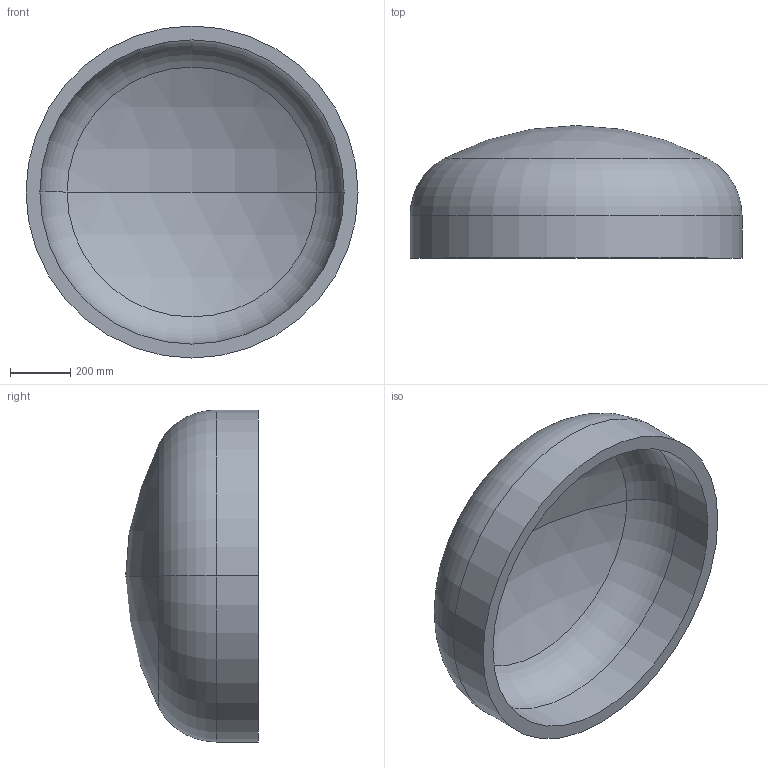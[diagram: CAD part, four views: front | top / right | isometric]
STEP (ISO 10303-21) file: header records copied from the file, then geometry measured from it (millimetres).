
FILE_DESCRIPTION (( 'STEP AP203' ), '1' );
FILE_NAME ('DIN 28013 Korbbogenform_-_Boden DIN 28013 - 1100 x 140 - I - s=46.step', '2016-07-01T09:08:57', ( '' ), ( '' ), 'SwSTEP 2.0', 'SolidWorks 2013', '' );
FILE_SCHEMA (( 'CONFIG_CONTROL_DESIGN' ));
Length unit declared in the file: millimetre
Products named in the file (1): DIN 28013 Korbbogenform_-_Boden DIN 28013 - 1100 x 140 - I - s=46
Bounding box: 1100 x 439.47 x 1100 mm (x, y, z)
Volume: 78722120.8 mm3; surface area: 3579448.8 mm2
Topology: 1 solids, 1 shells, 13 faces, 24 edges, 14 vertices
Faces by surface type: torus 4, cylinder 4, sphere 4, plane 1
Entity records: 407 total; most frequent: DIRECTION 72, CARTESIAN_POINT 52, ORIENTED_EDGE 48, AXIS2_PLACEMENT_3D 34, EDGE_CURVE 24, CIRCLE 20, EDGE_LOOP 14, VERTEX_POINT 14
